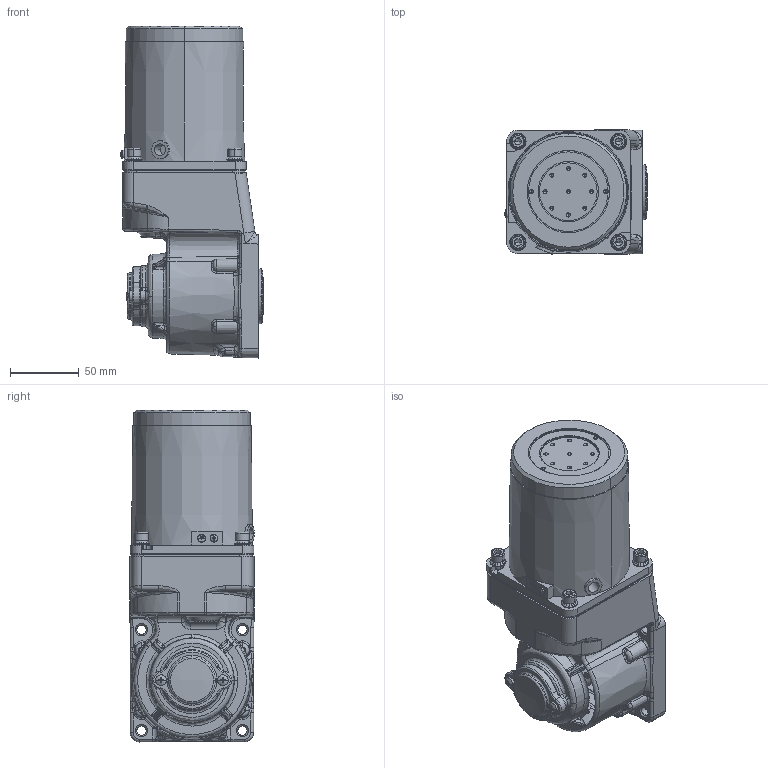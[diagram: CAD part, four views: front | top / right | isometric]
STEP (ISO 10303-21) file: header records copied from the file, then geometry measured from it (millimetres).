
FILE_DESCRIPTION (( 'STEP AP203' ), '1' );
FILE_NAME ('5IK40GU-C(5GU3RC-180RC)ÐÂ.STEP', '2022-02-23T06:00:49', ( 'PC' ), ( 'Microsoft' ), 'SwSTEP 2.0', 'SolidWorks 2014', '' );
FILE_SCHEMA (( 'CONFIG_CONTROL_DESIGN' ));
Length unit declared in the file: millimetre
Products named in the file (8): hexagon socket head cap screws gb_GB_FASTENER_SCREWS_HSHCS M5X12-N; ZD-5GU50RC-505-003綴傷裔1; cross recessed pan head screws gb_GB_CROSS_SCREWS_TYPE1 M4X6-6  H type-N; 5IK40GU-C(5GU3RC-180RC); 5IK40GU-C(5GU3RC-180RC)陔; 90妗陑俋倛芞; 90RT妗陑怀堤傷裔; 90諾陑怀堤粣
Assembly tree (11 placements, depth 2):
  5IK40GU-C(5GU3RC-180RC)陔
    90妗陑俋倛芞
    90RT妗陑怀堤傷裔
    90諾陑怀堤粣
    hexagon socket head cap screws gb_GB_FASTENER_SCREWS_HSHCS M5X12-N  x4
    ZD-5GU50RC-505-003綴傷裔1
    cross recessed pan head screws gb_GB_CROSS_SCREWS_TYPE1 M4X6-6  H type-N  x2
    5IK40GU-C(5GU3RC-180RC)
Bounding box: 103.85 x 90.89 x 242.04 mm (x, y, z)
Volume: 1462928.1 mm3; surface area: 167501.6 mm2
Topology: 28 solids, 28 shells, 1854 faces, 4560 edges, 2693 vertices
Faces by surface type: plane 525, bspline 471, cone 411, cylinder 360, torus 83, sphere 4
Entity records: 78743 total; most frequent: CARTESIAN_POINT 40405, ORIENTED_EDGE 8414, DIRECTION 7040, EDGE_CURVE 4207, AXIS2_PLACEMENT_3D 2804, VERTEX_POINT 2550, EDGE_LOOP 1847, ADVANCED_FACE 1754
